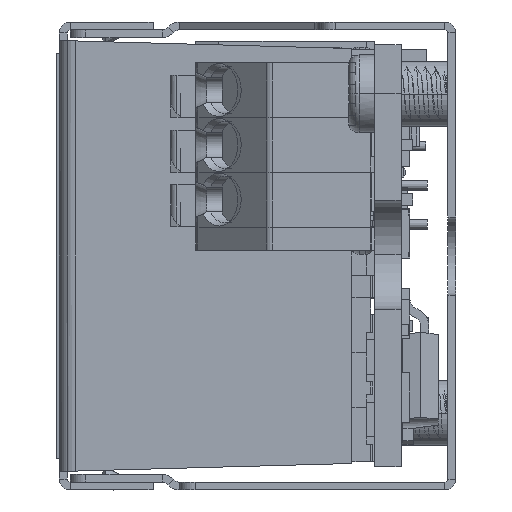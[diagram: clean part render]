
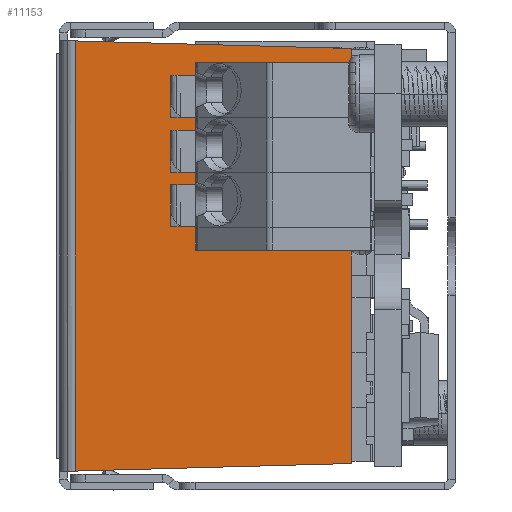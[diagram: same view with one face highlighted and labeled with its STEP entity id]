
A CAD part, left-side view. The second image highlights one B-rep face of the part: STEP entity #11153.
In plain terms, the highlighted planar face has unit normal (-1, 0, 0).
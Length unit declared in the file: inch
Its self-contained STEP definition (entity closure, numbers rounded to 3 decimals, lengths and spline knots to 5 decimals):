
#4779=DIRECTION('',(0.,0.,-1.));
#4780=VECTOR('',#4779,1.08553);
#4781=CARTESIAN_POINT('',(-6.43701,-0.01969,
0.54277));
#4782=LINE('',#4781,#4780);
#4786=CARTESIAN_POINT('',(-6.43701,-0.01969,
-0.54277));
#4821=DIRECTION('',(0.,-1.,-0.027));
#4822=VECTOR('',#4821,0.69711);
#4823=CARTESIAN_POINT('',(-6.43701,-0.01969,
0.54277));
#4824=LINE('',#4823,#4822);
#4828=DIRECTION('',(0.,1.,-0.027));
#4829=VECTOR('',#4828,0.69711);
#4830=CARTESIAN_POINT('',(-6.43701,-0.71654,
-0.52362));
#4831=LINE('',#4830,#4829);
#10228=DIRECTION('',(0.,0.,1.));
#10229=VECTOR('',#10228,1.04724);
#10230=CARTESIAN_POINT('',(-6.43701,-0.71654,
-0.52362));
#10231=LINE('',#10230,#10229);
#10302=VERTEX_POINT('',#4786);
#10305=CARTESIAN_POINT('',(-6.43701,-0.01969,
0.54277));
#10306=VERTEX_POINT('',#10305);
#10307=CARTESIAN_POINT('',(-6.43701,-0.71654,
0.52362));
#10308=VERTEX_POINT('',#10307);
#10309=CARTESIAN_POINT('',(-6.43701,-0.71654,
-0.52362));
#10310=VERTEX_POINT('',#10309);
#11139=CARTESIAN_POINT('',(-6.43701,0.01969,
0.29546));
#11140=DIRECTION('',(1.,0.,0.));
#11141=DIRECTION('',(0.,0.,1.));
#11142=AXIS2_PLACEMENT_3D('',#11139,#11140,#11141);
#11143=PLANE('',#11142);
#11144=ORIENTED_EDGE('',*,*,#11130,.F.);
#11146=ORIENTED_EDGE('',*,*,#11145,.T.);
#11148=ORIENTED_EDGE('',*,*,#11147,.F.);
#11150=ORIENTED_EDGE('',*,*,#11149,.T.);
#11151=EDGE_LOOP('',(#11144,#11146,#11148,#11150));
#11152=FACE_OUTER_BOUND('',#11151,.F.);
#11153=ADVANCED_FACE('',(#11152),#11143,.F.);
#11130=EDGE_CURVE('',#10306,#10302,#4782,.T.);
#11145=EDGE_CURVE('',#10306,#10308,#4824,.T.);
#11147=EDGE_CURVE('',#10310,#10308,#10231,.T.);
#11149=EDGE_CURVE('',#10310,#10302,#4831,.T.);
